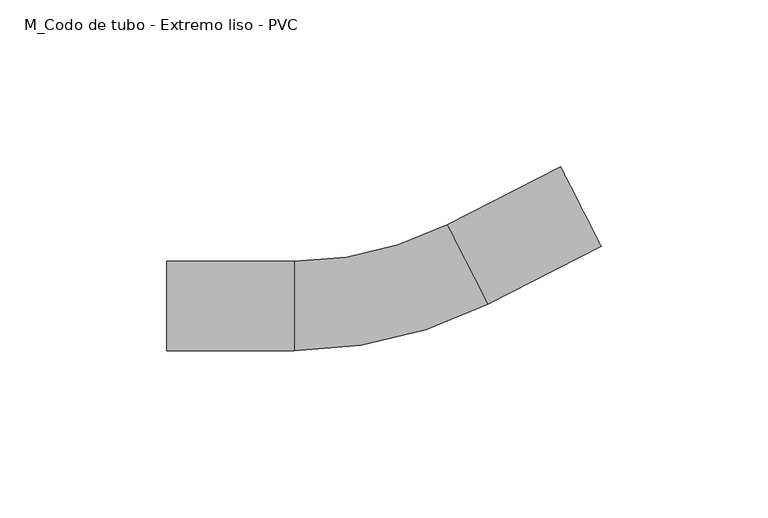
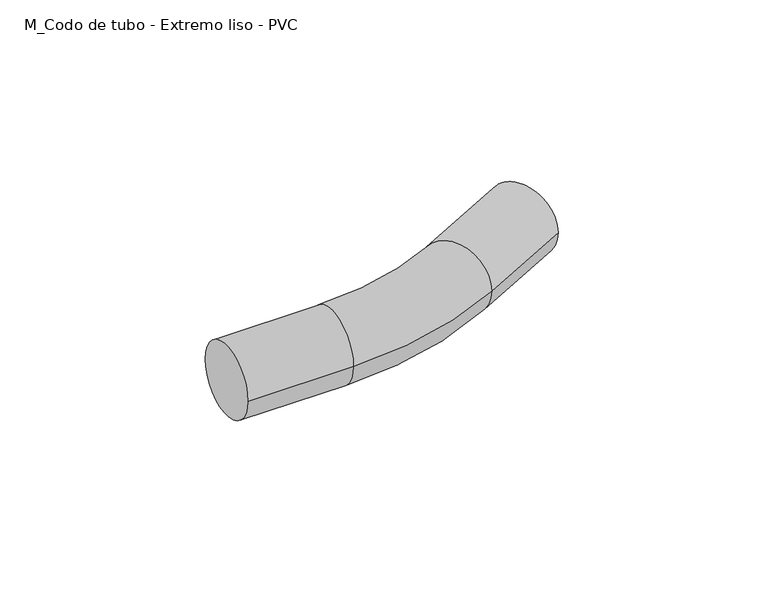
"""IFC4 building model written with IfcOpenShell, lengths in millimetres: cable carrier fitting geometry, M_Codo de tubo - Extremo liso - PVC : CODO POTENCIA."""

from ifc_helpers import new_model, si_unit, point, frame, origin, place, context, project, spatial, circle_curve, ellipse_curve, trimmed, source, transform, mapped, element, save
from ifc_brep_helpers import plane_surface, cylinder_surface, revolved_surface, advanced_brep


def m_codo_de_tubo_extremo_liso_pvc_48a36ed6(model_context):
    return source(origin(), model_context, "Body", "AdvancedBrep", [
        advanced_brep(
        [(-65.5410022, -13.335, 0.0), (-65.5410022, 13.335, 0.0), (-27.4410022, -13.335, 0.0), (-27.4410022, 13.335, 0.0), (18.3961486, 24.3395263, 0.0), (30.5040753, 0.5763823, 0.0), (64.4514238, 17.8734203, 0.0), (52.3434972, 41.6365643, 0.0)],
        [
            (0, 1, circle_curve(frame((-65.5410022, 0.0, 0.0), z_axis=(-1.0, 0.0, 0.0), x_axis=(0.0, 1.0, 0.0)), 13.335)),
            (1, 0, circle_curve(frame((-65.5410022, 0.0, 0.0), z_axis=(-1.0, 0.0, 0.0), x_axis=(0.0, 1.0, 0.0)), 13.335)),
            (0, 2),
            (2, 3, circle_curve(frame((-27.4410022, 0.0, 0.0), z_axis=(-1.0, 0.0, 0.0), x_axis=(0.0, 1.0, 0.0)), 13.335)),
            (3, 1),
            (3, 2, circle_curve(frame((-27.4410022, 0.0, 0.0), z_axis=(-1.0, 0.0, 0.0), x_axis=(0.0, 1.0, 0.0)), 13.335)),
            (4, 3, circle_curve(frame((-27.4410022, 114.3, 0.0), z_axis=(0.0, 0.0, -1.0), x_axis=(0.0, -1.0, 0.0)), 100.965)),
            (2, 5, circle_curve(frame((-27.4410022, 114.3, 0.0), z_axis=(0.0, 0.0, 1.0), x_axis=(0.0, -1.0, 0.0)), 127.635)),
            (5, 4, circle_curve(frame((24.450112, 12.4579543, 0.0), z_axis=(-0.891006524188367, -0.45399049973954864, 0.0), x_axis=(-0.45399049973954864, 0.891006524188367, 0.0)), 13.335)),
            (4, 5, circle_curve(frame((24.450112, 12.4579543, 0.0), z_axis=(-0.8910065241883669, -0.45399049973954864, 0.0), x_axis=(-0.45399049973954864, 0.8910065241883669, 0.0)), 13.335)),
            (6, 7, circle_curve(frame((58.3974605, 29.7549923, 0.0), z_axis=(0.891006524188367, 0.4539904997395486, 0.0), x_axis=(-0.4539904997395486, 0.891006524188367, 0.0)), 13.335)),
            (7, 6, circle_curve(frame((58.3974605, 29.7549923, 0.0), z_axis=(0.891006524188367, 0.4539904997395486, 0.0), x_axis=(-0.4539904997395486, 0.891006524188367, 0.0)), 13.335)),
            (5, 6),
            (7, 4),
        ],
        [
            plane_surface(frame((-65.5410022, 0.0, 0.0), z_axis=(-1.0, 0.0, 0.0), x_axis=(0.0, 0.0, 1.0))),
            cylinder_surface(frame((-65.5410022, 0.0, 0.0), z_axis=(-1.0, 0.0, 0.0), x_axis=(0.0, 1.0, 0.0)), 13.335),
            revolved_surface(trimmed(ellipse_curve(frame((-27.4410022, 0.0, 0.0), z_axis=(-1.0, 0.0, 0.0), x_axis=(0.0, 1.0, 0.0)), 13.335, 13.335), [point((-27.4410022, -13.335, 0.0))], [point((-27.4410022, 13.335, 0.0))], True, "CARTESIAN"), (-27.4410022, 114.3, 0.0), (0.0, 0.0, 1.0)),
            revolved_surface(trimmed(ellipse_curve(frame((-27.4410022, 0.0, 0.0), z_axis=(-1.0, 0.0, 0.0), x_axis=(0.0, 1.0, 0.0)), 13.335, 13.335), [point((-27.4410022, 13.335, 0.0))], [point((-27.4410022, -13.335, 0.0))], True, "CARTESIAN"), (-27.4410022, 114.3, 0.0), (0.0, 0.0, 1.0)),
            plane_surface(frame((58.3974605, 29.7549923, 0.0), z_axis=(0.891006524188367, 0.4539904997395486, 0.0), x_axis=(0.0, 0.0, 1.0))),
            cylinder_surface(frame((24.450112, 12.4579543, 0.0), z_axis=(-0.891006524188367, -0.4539904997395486, 0.0), x_axis=(-0.4539904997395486, 0.891006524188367, 0.0)), 13.335),
        ],
        [
            (0, [[1, 2]]),
            (1, [[-1, 3, 4, 5]]),
            (1, [[-2, -5, 6, -3]]),
            (2, [[7, -4, 8, 9]]),
            (3, [[-8, -6, -7, 10]]),
            (4, [[11, 12]]),
            (5, [[-9, 13, -12, 14]]),
            (5, [[-10, -14, -11, -13]]),
        ],
    ),
    ])


if __name__ == "__main__":
    model = new_model("IFC4")
    model_context = context("Model", 3, world=origin())
    ifc_project = project(units=[si_unit("LENGTHUNIT", "METRE", prefix="MILLI")], contexts=[model_context])
    site = spatial("IfcSite", under=ifc_project)
    building = spatial("IfcBuilding", under=site)
    placement = place(None, origin())
    m_codo_de_tubo_extremo_liso_pvc_shape = m_codo_de_tubo_extremo_liso_pvc_48a36ed6(model_context)
    element("IfcCableCarrierFitting", 1, ObjectType="M_Codo de tubo - Extremo liso - PVC : CODO POTENCIA", at=placement, inside=building, context=model_context, shape_type="MappedRepresentation", body=[
        mapped(m_codo_de_tubo_extremo_liso_pvc_shape, transform((0.0, 0.0, 0.0), x_axis=(1.0, 0.0, 0.0), y_axis=(0.0, 1.0, 0.0), z_axis=(0.0, 0.0, 1.0))),
    ])
    save(model, "model.ifc")
